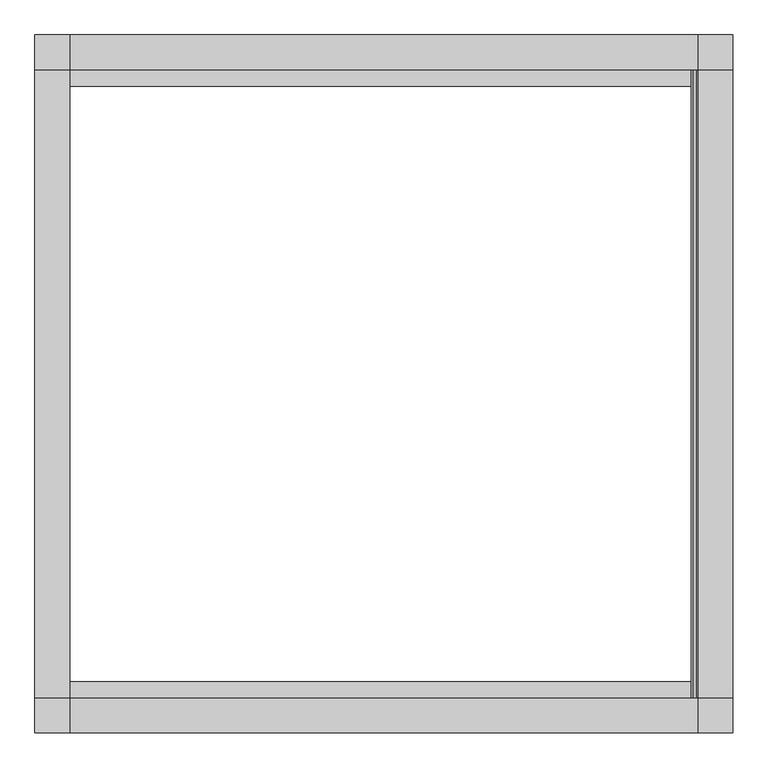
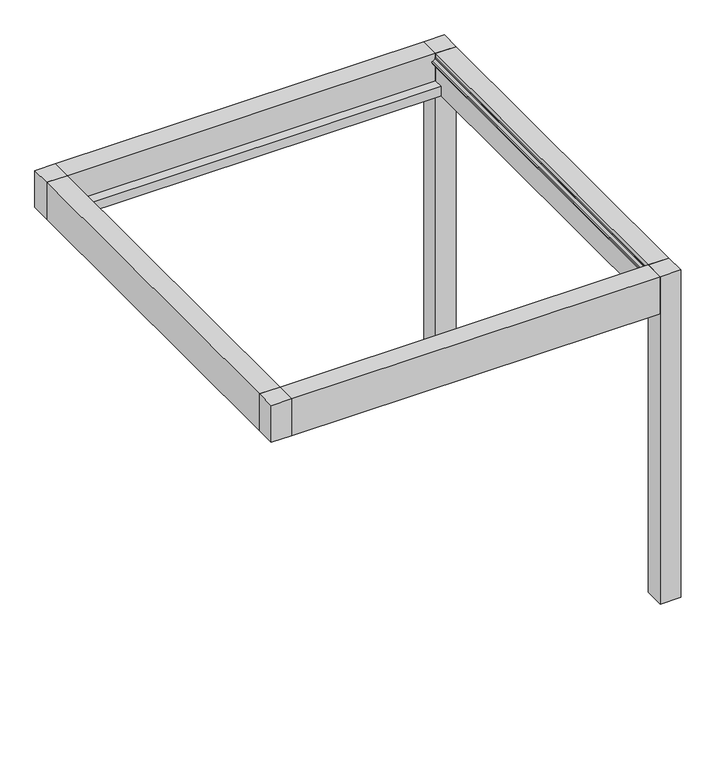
"""IFC4 building model written with IfcOpenShell, lengths in millimetres: proxy geometry, Renson_Amani_Patio_Cover : Renson_Amani_Patio_Cover."""

from ifc_helpers import new_model, si_unit, frame, origin, origin_with_axes, place, context, project, spatial, polyline, outline, extrude, source, transform, mapped, element, save


def generic_models_d4e71780(model_context):
    return source(origin(), model_context, "Body", "SweptSolid", [
        extrude(outline(polyline([(-1350.0, 1500.0), (-1350.0, 1350.0), (-1500.0, 1350.0), (-1500.0, 1500.0), (-1350.0, 1500.0)])), frame((0.0, 0.0, 2250.0), z_axis=(0.0, 0.0, 1.0), x_axis=(1.0, 0.0, 0.0)), (0.0, 0.0, 1.0), 285.0),
        extrude(outline(polyline([(-1350.0, -1500.0), (-1500.0, -1500.0), (-1500.0, -1350.0), (-1350.0, -1350.0), (-1350.0, -1500.0)])), frame((0.0, 0.0, 2250.0), z_axis=(0.0, 0.0, 1.0), x_axis=(1.0, 0.0, 0.0)), (0.0, 0.0, 1.0), 285.0),
        extrude(outline(polyline([(1500.0, -1350.0), (1500.0, -1500.0), (1350.0, -1500.0), (1350.0, -1350.0), (1500.0, -1350.0)])), origin_with_axes(), (0.0, 0.0, 1.0), 2535.0),
        extrude(outline(polyline([(1500.0, 1500.0), (1500.0, 1350.0), (1350.0, 1350.0), (1350.0, 1500.0), (1500.0, 1500.0)])), origin_with_axes(), (0.0, 0.0, 1.0), 2535.0),
        extrude(outline(polyline([(-1350.0, -1350.0), (-1500.0, -1350.0), (-1500.0, 1350.0), (-1350.0, 1350.0), (-1350.0, -1350.0)])), frame((0.0, 0.0, 2250.0), z_axis=(0.0, 0.0, 1.0), x_axis=(1.0, 0.0, 0.0)), (0.0, 0.0, 1.0), 285.0),
        extrude(outline(polyline([(2535.0, 1500.0), (2535.0, 1350.0), (2504.6904658, 1350.0), (2504.2449277, 1345.0), (2496.400763, 1345.0), (2480.6555802, 1329.2544156), (2480.6555802, 1319.9090324), (2466.6559373, 1323.6603211), (2466.6559373, 1350.0), (2250.0, 1350.0), (2250.0, 1500.0), (2535.0, 1500.0)])), frame((0.0, -1350.0, 0.0), z_axis=(0.0, 1.0, 0.0), x_axis=(0.0, 0.0, 1.0)), (0.0, 0.0, 1.0), 2700.0),
        extrude(outline(polyline([(-1350.0, 2535.0), (-1350.0, 2322.0), (-1280.0000001, 2322.0), (-1280.0000001, 2250.0), (-1500.0, 2250.0), (-1500.0, 2535.0), (-1350.0, 2535.0)])), frame((-1350.0, 0.0, 0.0), z_axis=(1.0, 0.0, 0.0), x_axis=(0.0, 1.0, 0.0)), (0.0, 0.0, 1.0), 2700.0),
        extrude(outline(polyline([(1500.0, 2250.0), (1280.0000001, 2250.0), (1280.0000001, 2322.0), (1350.0, 2322.0), (1350.0, 2535.0), (1500.0, 2535.0), (1500.0, 2250.0)])), frame((-1350.0, 0.0, 0.0), z_axis=(1.0, 0.0, 0.0), x_axis=(0.0, 1.0, 0.0)), (0.0, 0.0, 1.0), 2700.0),
    ])


if __name__ == "__main__":
    model = new_model("IFC4")
    model_context = context("Model", 3, world=origin())
    ifc_project = project(units=[si_unit("LENGTHUNIT", "METRE", prefix="MILLI")], contexts=[model_context])
    site = spatial("IfcSite", under=ifc_project)
    building = spatial("IfcBuilding", under=site)
    placement = place(None, origin())
    generic_models_shape = generic_models_d4e71780(model_context)
    element("IfcBuildingElementProxy", 1, Name="Renson_Amani_Patio_Cover : Renson_Amani_Patio_Cover", ObjectType="Renson_Amani_Patio_Cover : Renson_Amani_Patio_Cover", at=placement, inside=building, context=model_context, shape_type="MappedRepresentation", body=[
        mapped(generic_models_shape, transform((0.0, 0.0, 0.0), x_axis=(1.0, 0.0, 0.0), y_axis=(0.0, 1.0, 0.0), z_axis=(0.0, 0.0, 1.0))),
    ])
    save(model, "model.ifc")
